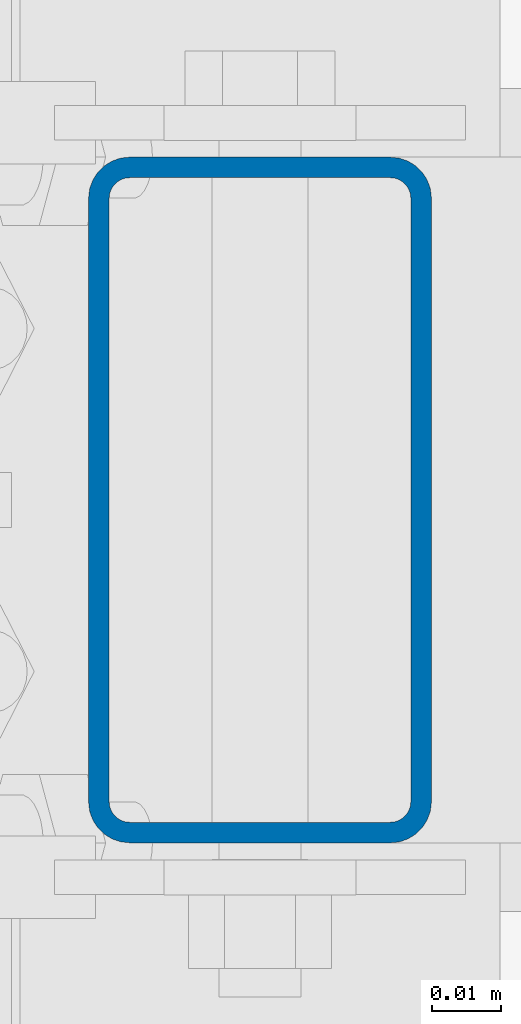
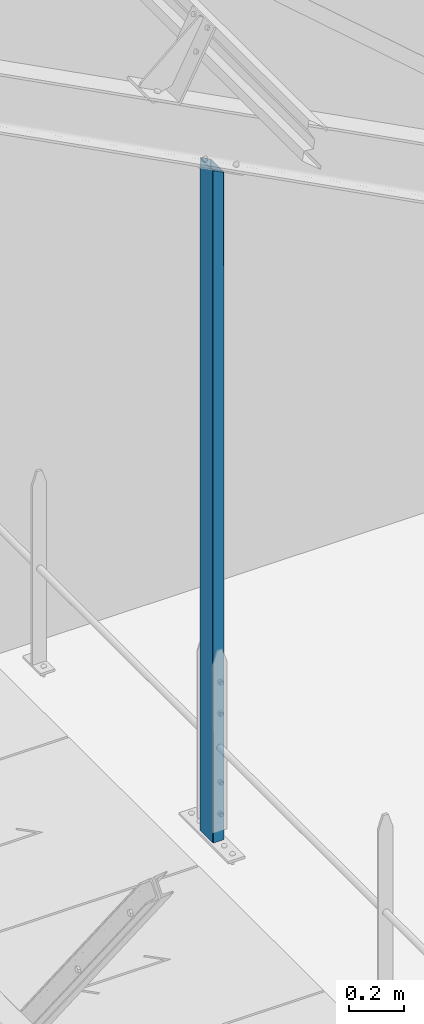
# One storey, part 4 of 362: 1 column, 1 element without a shape of its own.
"""IFC2X3 building model written with IfcOpenShell, lengths in millimetres."""

from ifc_helpers import new_model, si_unit, frame, origin_with_axes, origin_2d_with_axis, place, context, subcontext, project, spatial, hollow_rectangle, extrude, clip, halfspace, material, type_object, element, aggregate, save


model = new_model("IFC2X3")

# Units and contexts
model_context = context("Model", 3, precision=1e-05, world=origin_with_axes())
body_context = subcontext(model_context, "Body", "Model", "MODEL_VIEW")
ifc_project = project(units=[si_unit("LENGTHUNIT", "METRE", prefix="MILLI"), si_unit("AREAUNIT", "SQUARE_METRE"), si_unit("VOLUMEUNIT", "CUBIC_METRE"), si_unit("MASSUNIT", "GRAM", prefix="KILO"), si_unit("TIMEUNIT", "SECOND"), si_unit("PLANEANGLEUNIT", "RADIAN"), si_unit("SOLIDANGLEUNIT", "STERADIAN"), si_unit("THERMODYNAMICTEMPERATUREUNIT", "DEGREE_CELSIUS"), si_unit("LUMINOUSINTENSITYUNIT", "LUMEN")], contexts=[model_context])

# Site, building, storey
site_placement = place(None, origin_with_axes())
site = spatial("IfcSite", under=ifc_project, at=site_placement, Name="Undefined", CompositionType="ELEMENT")
building_placement = place(site_placement, origin_with_axes())
building = spatial("IfcBuilding", under=site, at=building_placement, Name="Undefined", CompositionType="ELEMENT")
storey_placement = place(building_placement, origin_with_axes())
storey = spatial("IfcBuildingStorey", under=building, at=storey_placement, Name="Undefined", CompositionType="ELEMENT", Elevation=0.0)

# Assembly, column
assembly_placement = place(storey_placement, origin_with_axes())
assembly = element("IfcElementAssembly", 1, at=assembly_placement, inside=storey, AssemblyPlace="NOTDEFINED", PredefinedType="NOTDEFINED")
ifc_material = material(Name="Undefined/S235-E24")
column_type = type_object("IfcColumnType", Name="TUBE-R-100*50*3", PredefinedType="NOTDEFINED")
column_placement = place(assembly_placement, frame((13993.9998855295, 3800.0, 8250.0), z_axis=(0.0, 0.0, 1.0), x_axis=(0.0, -1.0, 0.0)))
column = element("IfcColumn", 2, at=column_placement, type_object=column_type, material=ifc_material, Name="SUSPENTE", ObjectType="TUBE-R-100*50*3", context=body_context, shape_type="Clipping", body=[
    clip(extrude(hollow_rectangle(XDim=50.0, YDim=100.0, WallThickness=3.0, InnerFilletRadius=3.0, OuterFilletRadius=6.0, at=origin_2d_with_axis()), frame((0.0, 0.0, 3000.30494892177), z_axis=(0.0, 0.0, -1.0), x_axis=(0.0, 1.0, 0.0)), (0.0, 0.0, 1.0), 3000.3), halfspace(frame((0.0, -63.5993262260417, 3020.36630164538), z_axis=(0.0, -0.46352846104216, -0.886082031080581), x_axis=(1.0, 0.0, 0.0)), True)),
])
aggregate(assembly, [column])

save(model, "model.ifc")
